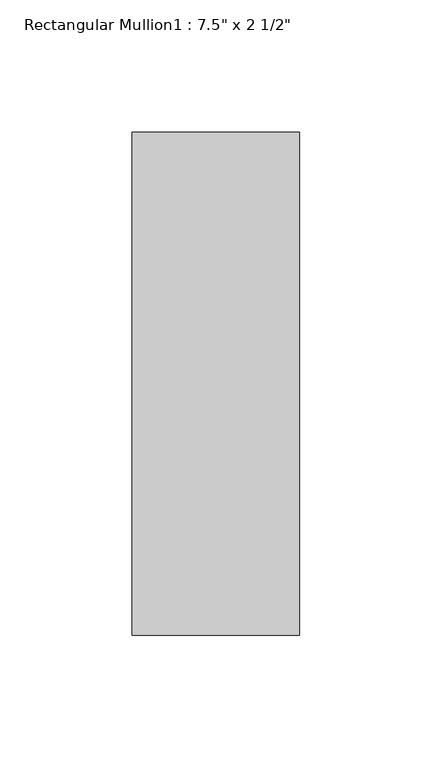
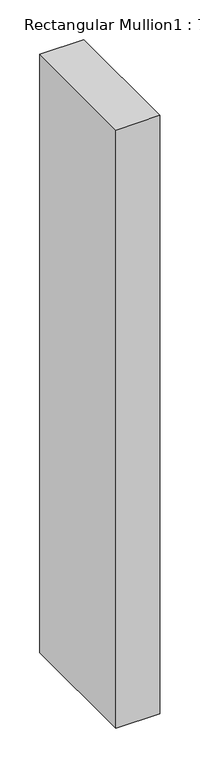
"""IFC4 building model written with IfcOpenShell, lengths in millimetres: member geometry."""

from ifc_helpers import new_model, si_unit, frame, origin, place, context, project, spatial, polyline, outline, extrude, source, transform, mapped, element, save


def member_b9eb401f(model_context):
    return source(origin(), model_context, "Body", "SweptSolid", [
        extrude(outline(polyline([(-63.5, 165.1), (0.0, 165.1), (0.0, -25.4), (-63.5, -25.4), (-63.5, 165.1)])), frame((0.0, 0.0, -914.4), z_axis=(0.0, 0.0, 1.0), x_axis=(1.0, 0.0, 0.0)), (0.0, 0.0, 1.0), 914.4),
    ])


if __name__ == "__main__":
    model = new_model("IFC4")
    model_context = context("Model", 3, world=origin())
    ifc_project = project(units=[si_unit("LENGTHUNIT", "METRE", prefix="MILLI")], contexts=[model_context])
    site = spatial("IfcSite", under=ifc_project)
    building = spatial("IfcBuilding", under=site)
    placement = place(None, origin())
    member_shape = member_b9eb401f(model_context)
    element("IfcMember", 1, ObjectType="Rectangular Mullion1 : 7.5\" x 2 1/2\"", at=placement, inside=building, context=model_context, shape_type="MappedRepresentation", body=[
        mapped(member_shape, transform((0.0, 0.0, 0.0), x_axis=(1.0, 0.0, 0.0), y_axis=(0.0, 1.0, 0.0), z_axis=(0.0, 0.0, 1.0))),
    ])
    save(model, "model.ifc")
